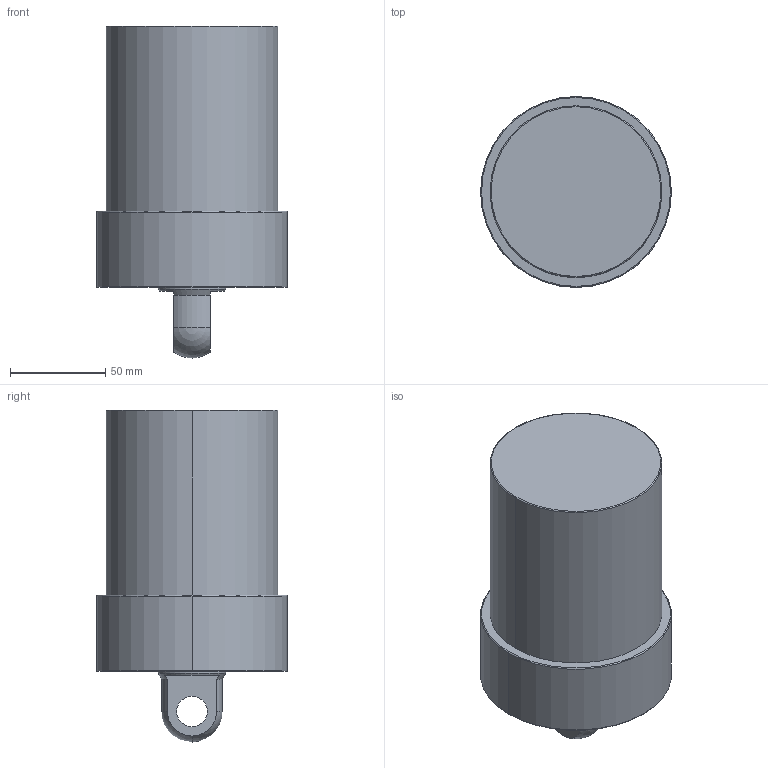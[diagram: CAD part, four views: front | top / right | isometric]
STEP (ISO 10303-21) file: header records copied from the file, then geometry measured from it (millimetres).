
FILE_DESCRIPTION (( 'STEP AP203' ), '1' );
FILE_NAME ('CLLU-090CP-075.STEP', '2020-01-13T03:29:44', ( '' ), ( '' ), 'SwSTEP 2.0', 'SolidWorks 2015', '' );
FILE_SCHEMA (( 'CONFIG_CONTROL_DESIGN' ));
Length unit declared in the file: millimetre
Products named in the file (1): CLLU-090CP-075
Bounding box: 100 x 100 x 174 mm (x, y, z)
Volume: 940930.4 mm3; surface area: 61561 mm2
Topology: 1 solids, 1 shells, 57 faces, 134 edges, 77 vertices
Faces by surface type: cylinder 22, cone 18, plane 9, torus 6, sphere 2
Entity records: 1643 total; most frequent: DIRECTION 308, CARTESIAN_POINT 267, ORIENTED_EDGE 244, AXIS2_PLACEMENT_3D 132, EDGE_CURVE 122, VERTEX_POINT 75, CIRCLE 74, EDGE_LOOP 67
